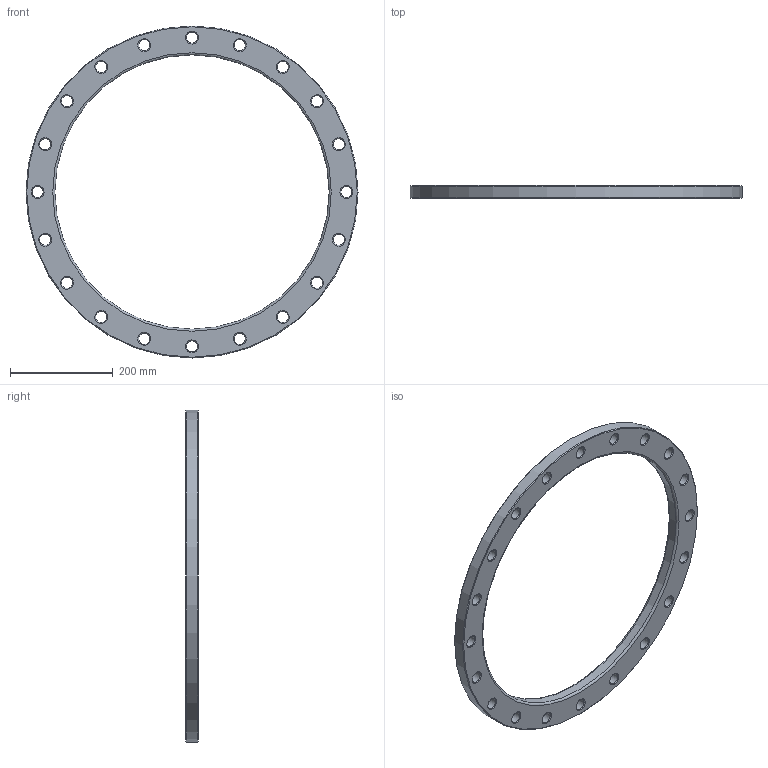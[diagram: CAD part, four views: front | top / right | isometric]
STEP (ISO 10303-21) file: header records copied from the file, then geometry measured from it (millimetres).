
FILE_DESCRIPTION(/* description */ ('Unknown'),/* implementation_level */ '2;1');
FILE_NAME(/* name */ 'FZ500A',/* time_stamp */ '2021-03-13T11:56:01+01:00',/* author */ ('Unknown'),/* organization */ ('Unknown'),/* preprocessor_version */ 'ST-DEVELOPER v16.7',/* originating_system */ 'Solid Edge',/* authorisation */ 'Unknown');
FILE_SCHEMA (('AUTOMOTIVE_DESIGN {1 0 10303 214 3 1 1}'));
Length unit declared in the file: millimetre
Products named in the file (1): FZ500A
Bounding box: 645 x 25 x 645 mm (x, y, z)
Volume: 2381149.7 mm3; surface area: 307502.5 mm2
Topology: 1 solids, 1 shells, 68 faces, 214 edges, 148 vertices
Faces by surface type: cone 42, cylinder 22, plane 2, torus 2
Full cylindrical faces by diameter (mm): 22 x20, 533 x1, 645 x1
Entity records: 1678 total; most frequent: DIRECTION 314, CARTESIAN_POINT 245, ORIENTED_EDGE 176, EDGE_LOOP 176, FACE_BOUND 176, AXIS2_PLACEMENT_3D 157, EDGE_CURVE 88, VERTEX_POINT 88
